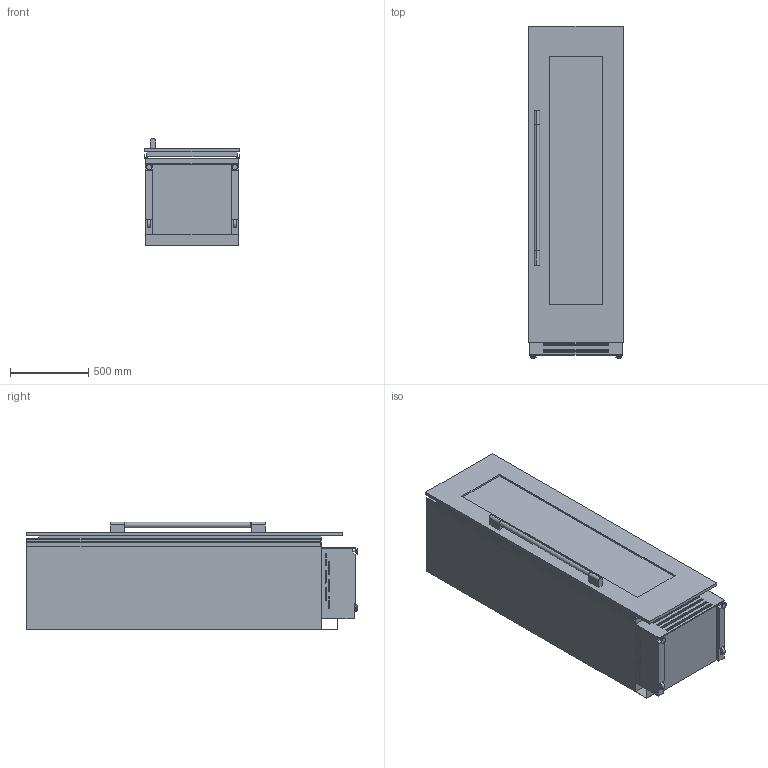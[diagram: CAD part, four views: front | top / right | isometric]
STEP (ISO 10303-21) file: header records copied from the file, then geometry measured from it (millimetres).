
FILE_DESCRIPTION (( 'STEP AP214' ), '1' );
FILE_NAME ('FKS_24_0F_W_6_U.STEP', '2025-01-21T10:45:39', ( '' ), ( '' ), 'SwSTEP 2.0', 'SolidWorks 2017', '' );
FILE_SCHEMA (( 'AUTOMOTIVE_DESIGN' ));
Length unit declared in the file: millimetre
Products named in the file (1): FKS_24_0F_W_6_U
Bounding box: 608 x 2120 x 687.5 mm (x, y, z)
Volume: 731835192.6 mm3; surface area: 9415792.5 mm2
Topology: 8 solids, 8 shells, 393 faces, 994 edges, 654 vertices
Faces by surface type: plane 268, cylinder 109, torus 12, cone 4
Entity records: 13324 total; most frequent: CARTESIAN_POINT 2042, DIRECTION 2028, ORIENTED_EDGE 1988, EDGE_CURVE 994, VECTOR 748, LINE 748, VERTEX_POINT 654, AXIS2_PLACEMENT_3D 640
